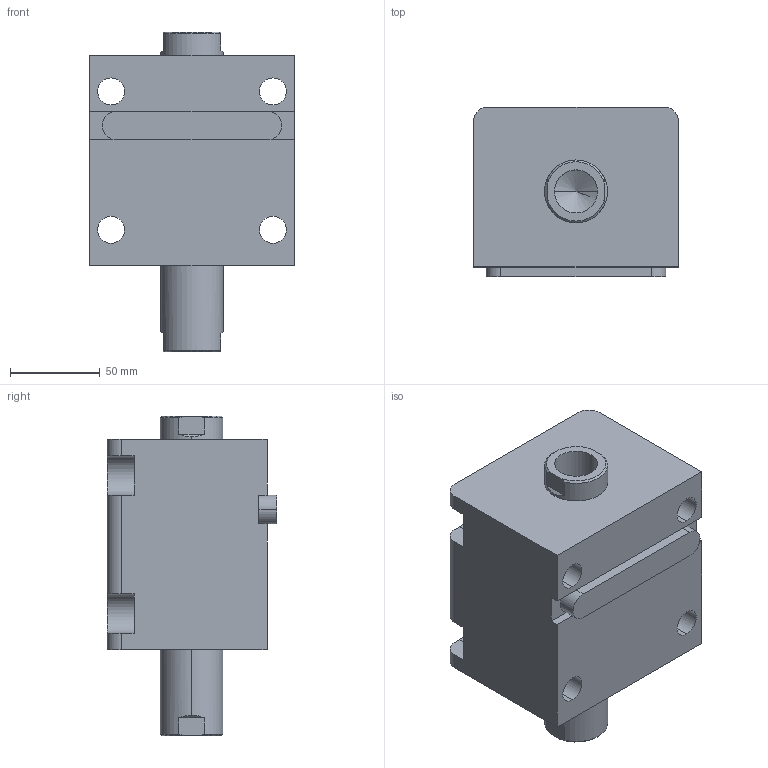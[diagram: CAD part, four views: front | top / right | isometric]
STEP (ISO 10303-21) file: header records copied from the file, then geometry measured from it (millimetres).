
FILE_DESCRIPTION (( 'STEP AP203' ), '1' );
FILE_NAME ('HTB-LW63-35N.STEP', '2019-10-09T08:25:23', ( '微软用户' ), ( '微软中国' ), 'SwSTEP 2.0', 'SolidWorks 2012', '' );
FILE_SCHEMA (( 'CONFIG_CONTROL_DESIGN' ));
Length unit declared in the file: millimetre
Products named in the file (4): HTB-LW63-35N; HTB-LA63-瑩; HTB-LW63-35N活塞杆; HTB-LW63-35掛极
Assembly tree (3 placements, depth 2):
  HTB-LW63-35N
    HTB-LW63-35掛极
    HTB-LW63-35N活塞杆
    HTB-LA63-瑩
Bounding box: 114 x 94.5 x 178 mm (x, y, z)
Volume: 1056086 mm3; surface area: 142022.2 mm2
Topology: 3 solids, 3 shells, 101 faces, 253 edges, 164 vertices
Faces by surface type: plane 44, cylinder 41, cone 12, torus 4
Entity records: 3467 total; most frequent: CARTESIAN_POINT 576, DIRECTION 549, ORIENTED_EDGE 498, EDGE_CURVE 249, AXIS2_PLACEMENT_3D 209, VERTEX_POINT 164, VECTOR 131, LINE 131
